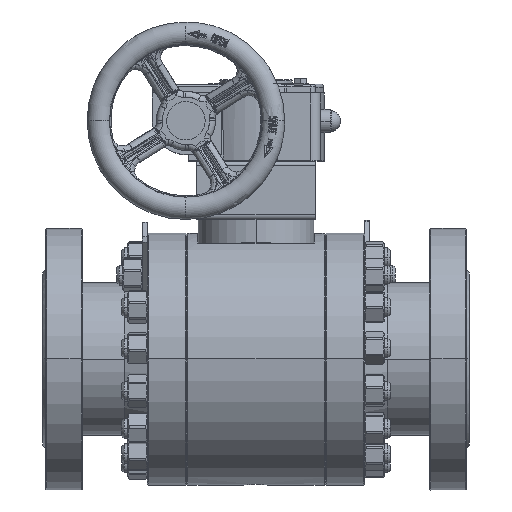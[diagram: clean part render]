
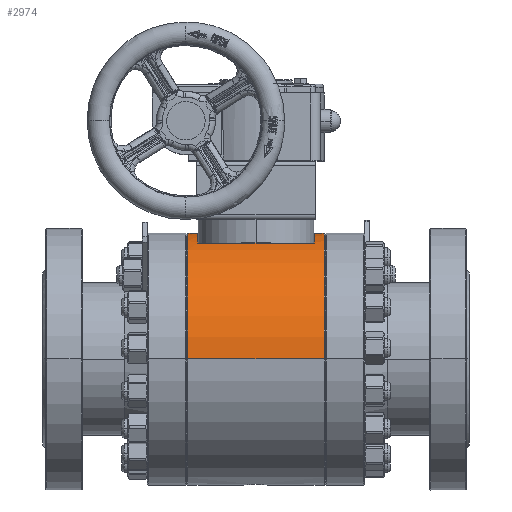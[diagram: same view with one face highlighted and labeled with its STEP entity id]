
A CAD part, top view. The second image highlights one B-rep face of the part: STEP entity #2974.
In plain terms, the highlighted cylindrical face has radius 127.5 mm (diameter 255 mm), a partial arc.
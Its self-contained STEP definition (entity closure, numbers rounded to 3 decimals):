
#2974=ADVANCED_FACE('',(#18256,#18258),#18260,.T.);
#18256=FACE_BOUND('',#18257,.T.);
#18257=EDGE_LOOP('',(#70696,#70697,#70698,#70699));
#18258=FACE_OUTER_BOUND('',#18259,.T.);
#18259=EDGE_LOOP('',(#70700,#70701,#70702,#70703));
#18260=CYLINDRICAL_SURFACE('',#18261,127.5);
#18261=AXIS2_PLACEMENT_3D('',#18262,#18263,#18264);
#18262=CARTESIAN_POINT('',(0.,0.,0.));
#18263=DIRECTION('',(1.,0.,0.));
#18264=DIRECTION('',(0.,0.,-1.));
#70696=ORIENTED_EDGE('',*,*,#80238,.T.);
#70697=ORIENTED_EDGE('',*,*,#79838,.T.);
#70698=ORIENTED_EDGE('',*,*,#80237,.T.);
#70699=ORIENTED_EDGE('',*,*,#79836,.T.);
#70700=ORIENTED_EDGE('',*,*,#80236,.T.);
#70701=ORIENTED_EDGE('',*,*,#80239,.T.);
#70702=ORIENTED_EDGE('',*,*,#80240,.T.);
#70703=ORIENTED_EDGE('',*,*,#80241,.F.);
#79836=EDGE_CURVE('',#89898,#89896,#89899,.T.);
#79838=EDGE_CURVE('',#89895,#89900,#89902,.T.);
#80236=EDGE_CURVE('',#90548,#90546,#90551,.T.);
#80237=EDGE_CURVE('',#89900,#89898,#90552,.T.);
#80238=EDGE_CURVE('',#89896,#89895,#90553,.T.);
#80239=EDGE_CURVE('',#90546,#90554,#90555,.T.);
#80240=EDGE_CURVE('',#90554,#90556,#90557,.T.);
#80241=EDGE_CURVE('',#90548,#90556,#90558,.T.);
#89895=VERTEX_POINT('',#132329);
#89896=VERTEX_POINT('',#132330);
#89898=VERTEX_POINT('',#132334);
#89899=LINE('',#132335,#132336);
#89900=VERTEX_POINT('',#132338);
#89902=LINE('',#132342,#132343);
#90546=VERTEX_POINT('',#135060);
#90548=VERTEX_POINT('',#135064);
#90551=CIRCLE('',#135072,127.5);
#90552=CIRCLE('',#135076,127.5);
#90553=CIRCLE('',#135080,127.5);
#90554=VERTEX_POINT('',#135084);
#90555=LINE('',#135085,#135086);
#90556=VERTEX_POINT('',#135088);
#90557=CIRCLE('',#135089,127.5);
#90558=LINE('',#135093,#135094);
#132329=CARTESIAN_POINT('',(-59.,117.5,-49.497));
#132330=CARTESIAN_POINT('',(-59.,117.5,49.497));
#132334=CARTESIAN_POINT('',(59.,117.5,49.497));
#132335=CARTESIAN_POINT('',(59.,117.5,49.497));
#132336=VECTOR('',#132337,1.);
#132337=DIRECTION('',(-1.,0.,0.));
#132338=CARTESIAN_POINT('',(59.,117.5,-49.497));
#132342=CARTESIAN_POINT('',(-59.,117.5,-49.497));
#132343=VECTOR('',#132344,1.);
#132344=DIRECTION('',(1.,0.,0.));
#135060=CARTESIAN_POINT('',(-69.,0.,127.5));
#135064=CARTESIAN_POINT('',(-69.,0.,-127.5));
#135072=AXIS2_PLACEMENT_3D('',#135073,#135074,#135075);
#135073=CARTESIAN_POINT('',(-69.,0.,0.));
#135074=DIRECTION('',(1.,0.,0.));
#135075=DIRECTION('',(0.,0.,-1.));
#135076=AXIS2_PLACEMENT_3D('',#135077,#135078,#135079);
#135077=CARTESIAN_POINT('',(59.,0.,0.));
#135078=DIRECTION('',(1.,0.,0.));
#135079=DIRECTION('',(0.,0.922,-0.388));
#135080=AXIS2_PLACEMENT_3D('',#135081,#135082,#135083);
#135081=CARTESIAN_POINT('',(-59.,0.,0.));
#135082=DIRECTION('',(-1.,0.,0.));
#135083=DIRECTION('',(0.,0.922,0.388));
#135084=CARTESIAN_POINT('',(69.,0.,127.5));
#135085=CARTESIAN_POINT('',(-69.,0.,127.5));
#135086=VECTOR('',#135087,1.);
#135087=DIRECTION('',(1.,0.,0.));
#135088=CARTESIAN_POINT('',(69.,0.,-127.5));
#135089=AXIS2_PLACEMENT_3D('',#135090,#135091,#135092);
#135090=CARTESIAN_POINT('',(69.,0.,0.));
#135091=DIRECTION('',(-1.,0.,0.));
#135092=DIRECTION('',(-0.,0.,1.));
#135093=CARTESIAN_POINT('',(-69.,0.,-127.5));
#135094=VECTOR('',#135095,1.);
#135095=DIRECTION('',(1.,0.,0.));
